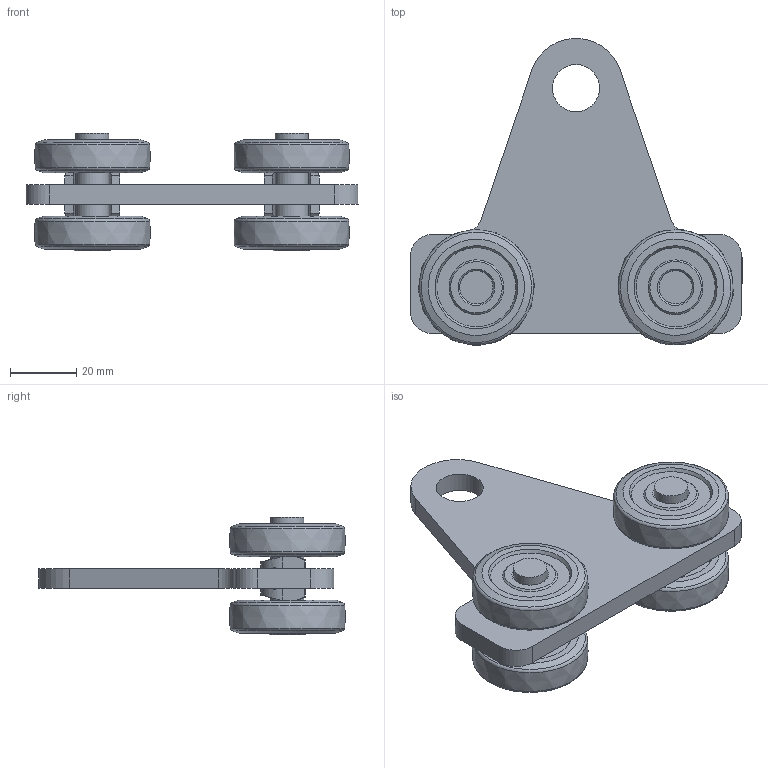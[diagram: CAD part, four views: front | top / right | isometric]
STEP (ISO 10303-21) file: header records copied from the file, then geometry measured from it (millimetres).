
FILE_DESCRIPTION(/* description */ ('Brennteil'),/* implementation_level */ '2;1');
FILE_NAME(/* name */ 'Q:\sge-ma\Produktmanagement-STB\STB\Workspace\stp\010336837.stp',/* time_stamp */ '2015-03-10T13:30:22+01:00',/* author */ ('avschreier'),/* organization */ (''),/* preprocessor_version */ 'ST-DEVELOPER v15.6',/* originating_system */ 'Autodesk Inventor 2015',/* authorisation */ '');
FILE_SCHEMA (('CONFIG_CONTROL_DESIGN'));
Length unit declared in the file: millimetre
Products named in the file (5): 000302062; 336290020; 000304013; 000303236; 010336837
Bounding box: 100 x 92.44 x 35.5 mm (x, y, z)
Volume: 67165.3 mm3; surface area: 28785.5 mm2
Topology: 11 solids, 11 shells, 263 faces, 626 edges, 403 vertices
Faces by surface type: plane 147, cylinder 36, bspline 36, cone 34, torus 10
Full cylindrical faces by diameter (mm): 10 x6, 12 x2, 14.2 x1
Entity records: 3757 total; most frequent: CARTESIAN_POINT 1589, DIRECTION 440, ORIENTED_EDGE 394, EDGE_CURVE 197, AXIS2_PLACEMENT_3D 165, VERTEX_POINT 138, EDGE_LOOP 117, LINE 110
